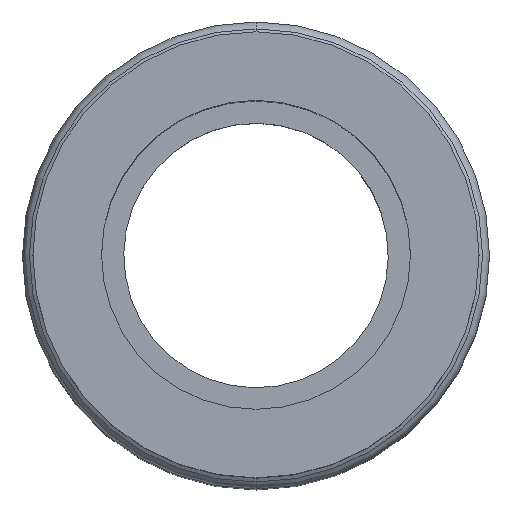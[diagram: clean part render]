
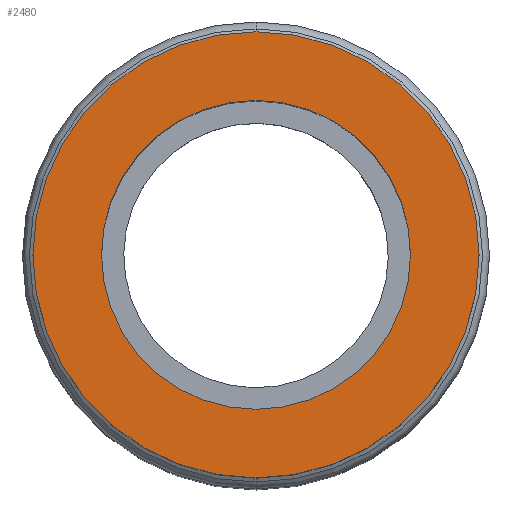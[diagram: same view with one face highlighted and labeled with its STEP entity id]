
A CAD part, top view. The second image highlights one B-rep face of the part: STEP entity #2480.
In plain terms, the highlighted planar face has unit normal (0, 0, 1) as drawn and (-1, 0, 0) by its records, which use the part's own axes.
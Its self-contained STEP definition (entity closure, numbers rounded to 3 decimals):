
#120=CARTESIAN_POINT('',(-13.914,49.8,
0.));
#130=VERTEX_POINT('',#120);
#290=CARTESIAN_POINT('',(-13.914,27.6,
0.));
#300=VERTEX_POINT('',#290);
#330=CARTESIAN_POINT('',(-13.914,38.7,
0.));
#340=DIRECTION('',(-1.,0.,-0.));
#350=DIRECTION('',(0.,-1.,0.));
#360=AXIS2_PLACEMENT_3D('',#330,#340,#350);
#370=CIRCLE('',#360,11.1);
#380=EDGE_CURVE('',#130,#300,#370,.T.);
#2230=CARTESIAN_POINT('',(-13.914,53.5,
0.));
#2240=DIRECTION('',(-1.,0.,0.));
#2250=DIRECTION('',(0.,-1.,0.));
#2260=AXIS2_PLACEMENT_3D('',#2230,#2240,#2250);
#2270=PLANE('',#2260);
#2280=EDGE_CURVE('',#300,#130,#370,.T.);
#2290=ORIENTED_EDGE('',*,*,#2280,.F.);
#2300=ORIENTED_EDGE('',*,*,#380,.F.);
#2310=EDGE_LOOP('',(#2300,#2290));
#2320=FACE_BOUND('',#2310,.T.);
#2330=CARTESIAN_POINT('',(-13.914,38.7,
0.));
#2340=DIRECTION('',(1.,0.,0.));
#2350=DIRECTION('',(0.,-1.,0.));
#2360=AXIS2_PLACEMENT_3D('',#2330,#2340,#2350);
#2370=CIRCLE('',#2360,16.025);
#2380=CARTESIAN_POINT('',(-13.914,22.675,
0.));
#2390=VERTEX_POINT('',#2380);
#2400=CARTESIAN_POINT('',(-13.914,54.725,
0.));
#2410=VERTEX_POINT('',#2400);
#2420=EDGE_CURVE('',#2390,#2410,#2370,.T.);
#2430=ORIENTED_EDGE('',*,*,#2420,.F.);
#2440=EDGE_CURVE('',#2410,#2390,#2370,.T.);
#2450=ORIENTED_EDGE('',*,*,#2440,.F.);
#2460=EDGE_LOOP('',(#2450,#2430));
#2470=FACE_OUTER_BOUND('',#2460,.T.);
#2480=ADVANCED_FACE('',(#2320,#2470),#2270,.T.);
